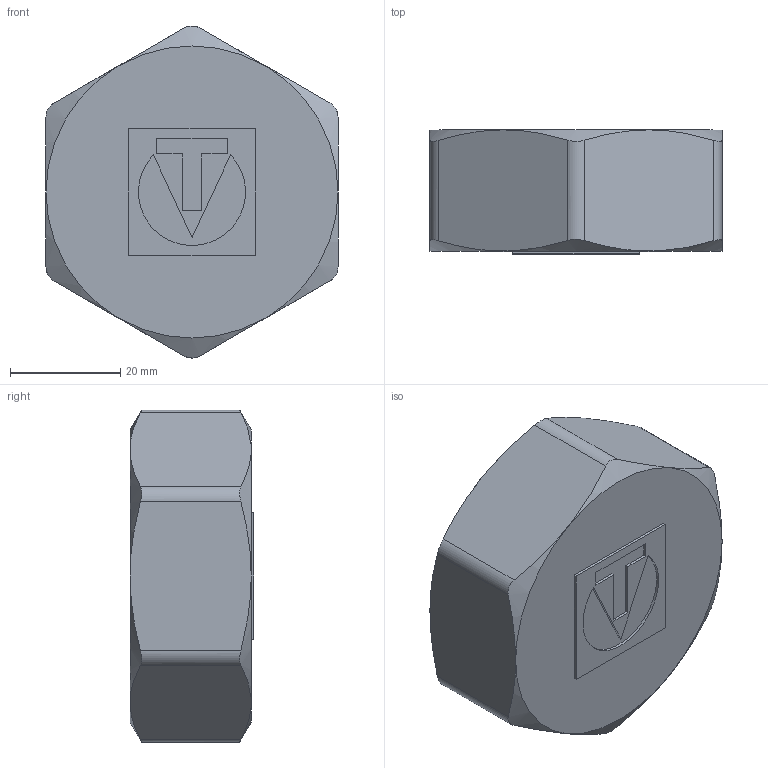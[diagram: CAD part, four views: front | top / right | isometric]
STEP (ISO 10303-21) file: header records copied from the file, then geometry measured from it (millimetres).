
FILE_DESCRIPTION(('STEP AP203'), '1');
FILE_NAME('ÂÐ.752513.014 - VTr.590.N.0008 Çàãë. ðåçüá', '2024-07-08T07:27:08', ('Boss'), (''), 'C3D Converter', 'C3D Toolkit', '');
FILE_SCHEMA(('CONFIG_CONTROL_DESIGN'));
Length unit declared in the file: millimetre
Products named in the file (1): ВР.752513.014
Bounding box: 53 x 22.5 x 60.26 mm (x, y, z)
Volume: 23044.9 mm3; surface area: 11282.7 mm2
Topology: 1 solids, 1 shells, 43 faces, 102 edges, 65 vertices
Faces by surface type: plane 26, cone 9, cylinder 8
Full cylindrical faces by diameter (mm): 44.846 x1
Entity records: 2356 total; most frequent: CARTESIAN_POINT 1410, ORIENTED_EDGE 196, DIRECTION 165, EDGE_CURVE 98, VERTEX_POINT 64, AXIS2_PLACEMENT_3D 55, LINE 55, VECTOR 55
